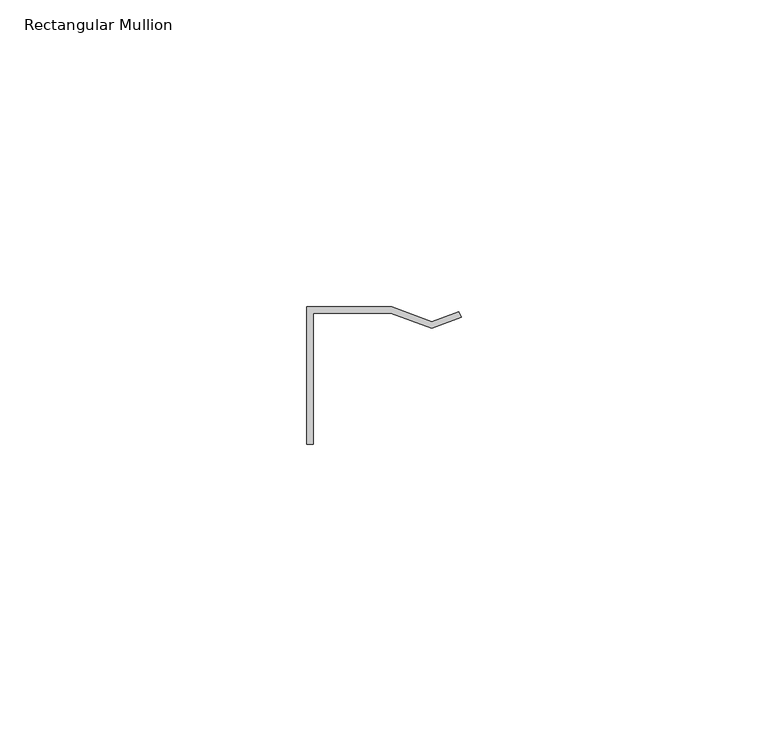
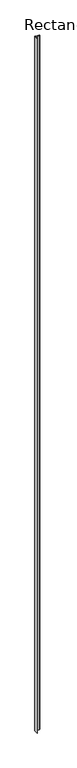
"""IFC4 building model written with IfcOpenShell, lengths in millimetres: member geometry, Rectangular Mullion : Stratco_Hiland_Interlock_Concealed Fix 10mm Gap_Male."""

from ifc_helpers import new_model, si_unit, frame, origin, place, context, project, spatial, polyline, outline, extrude, source, transform, mapped, element, save


def rectangular_mullion_95a9d715(model_context):
    return source(origin(), model_context, "Body", "SweptSolid", [
        extrude(outline(polyline([(-24.0971974, -3.6), (-24.0971974, -25.0), (-25.0971974, -25.0), (-25.0971974, -2.6), (-11.2827248, -2.6), (-4.774873, -4.9686643), (-0.3420201, -3.3552379), (0.0, -4.2949305), (-4.774873, -6.0328421), (-11.4590518, -3.6), (-24.0971974, -3.6)])), frame((0.0, 0.0, -4000.0), z_axis=(0.0, 0.0, 1.0), x_axis=(1.0, 0.0, 0.0)), (0.0, 0.0, 1.0), 4000.0),
    ])


if __name__ == "__main__":
    model = new_model("IFC4")
    model_context = context("Model", 3, world=origin())
    ifc_project = project(units=[si_unit("LENGTHUNIT", "METRE", prefix="MILLI")], contexts=[model_context])
    site = spatial("IfcSite", under=ifc_project)
    building = spatial("IfcBuilding", under=site)
    placement = place(None, origin())
    rectangular_mullion_shape = rectangular_mullion_95a9d715(model_context)
    element("IfcMember", 1, ObjectType="Rectangular Mullion : Stratco_Hiland_Interlock_Concealed Fix 10mm Gap_Male", at=placement, inside=building, context=model_context, shape_type="MappedRepresentation", body=[
        mapped(rectangular_mullion_shape, transform((0.0, 0.0, 0.0), x_axis=(1.0, 0.0, 0.0), y_axis=(0.0, 1.0, 0.0), z_axis=(0.0, 0.0, 1.0))),
    ])
    save(model, "model.ifc")
